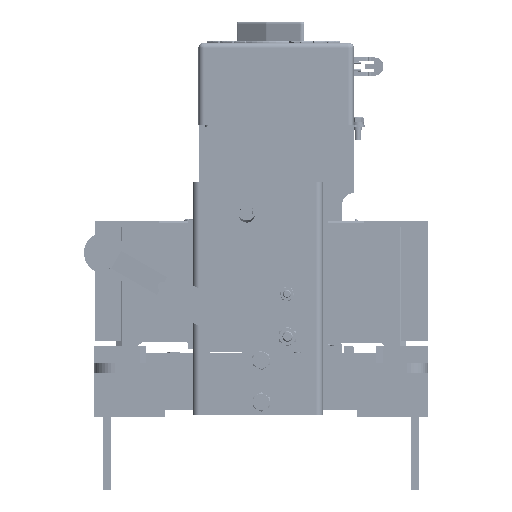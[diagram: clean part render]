
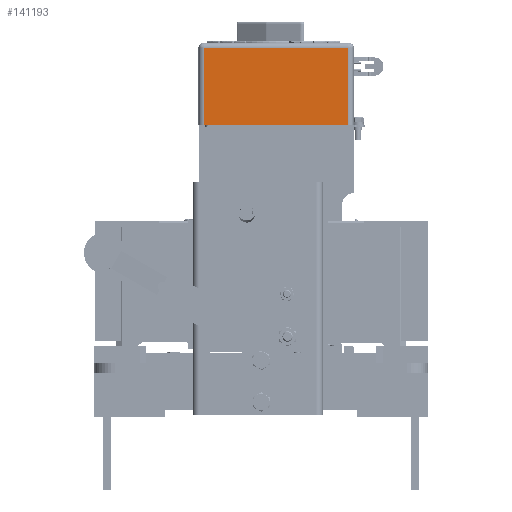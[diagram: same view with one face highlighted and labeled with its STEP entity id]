
A CAD part, left-side view. The second image highlights one B-rep face of the part: STEP entity #141193.
In plain terms, the highlighted planar face has unit normal (-1, 0, 0).
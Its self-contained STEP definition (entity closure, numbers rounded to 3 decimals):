
#3230 = LINE ( 'NONE', #157275, #3234 ) ;
#3234 = VECTOR ( 'NONE', #157278, 1000. ) ;
#3272 = LINE ( 'NONE', #157635, #3336 ) ;
#3326 = LINE ( 'NONE', #157651, #3332 ) ;
#3332 = VECTOR ( 'NONE', #157657, 1000. ) ;
#3334 = LINE ( 'NONE', #157668, #3340 ) ;
#3336 = VECTOR ( 'NONE', #157661, 1000. ) ;
#3340 = VECTOR ( 'NONE', #157674, 1000. ) ;
#27838 = VERTEX_POINT ( 'NONE', #176121 ) ;
#27843 = VERTEX_POINT ( 'NONE', #176118 ) ;
#27851 = VERTEX_POINT ( 'NONE', #176135 ) ;
#27863 = VERTEX_POINT ( 'NONE', #176156 ) ;
#31268 = ORIENTED_EDGE ( 'NONE', *, *, #206676, .F. ) ;
#123988 = FACE_OUTER_BOUND ( 'NONE', #266877, .T. ) ;
#141193 = ADVANCED_FACE ( 'NONE', ( #123988 ), #250225, .F. ) ;
#157275 = CARTESIAN_POINT ( 'NONE',  ( -113.638, -68.062, 158.851 ) ) ;
#157278 = DIRECTION ( 'NONE',  ( 0., 1., 0. ) ) ;
#157635 = CARTESIAN_POINT ( 'NONE',  ( -113.638, 51.438, 218.351 ) ) ;
#157651 = CARTESIAN_POINT ( 'NONE',  ( -113.638, -64.062, 158.851 ) ) ;
#157657 = DIRECTION ( 'NONE',  ( 0., 0., 1. ) ) ;
#157661 = DIRECTION ( 'NONE',  ( 0., 1., 0. ) ) ;
#157668 = CARTESIAN_POINT ( 'NONE',  ( -113.638, 47.438, 158.851 ) ) ;
#157674 = DIRECTION ( 'NONE',  ( 0., 0., -1. ) ) ;
#163258 = AXIS2_PLACEMENT_3D ( 'NONE', #250205, #250230, #250231 ) ;
#172738 = ORIENTED_EDGE ( 'NONE', *, *, #206734, .T. ) ;
#172748 = ORIENTED_EDGE ( 'NONE', *, *, #206735, .T. ) ;
#172762 = ORIENTED_EDGE ( 'NONE', *, *, #206738, .T. ) ;
#176118 = CARTESIAN_POINT ( 'NONE',  ( -113.638, -64.062, 158.851 ) ) ;
#176121 = CARTESIAN_POINT ( 'NONE',  ( -113.638, 47.438, 218.351 ) ) ;
#176135 = CARTESIAN_POINT ( 'NONE',  ( -113.638, -64.062, 218.351 ) ) ;
#176156 = CARTESIAN_POINT ( 'NONE',  ( -113.638, 47.438, 158.851 ) ) ;
#206676 = EDGE_CURVE ( 'NONE', #27843, #27863, #3230, .T. ) ;
#206734 = EDGE_CURVE ( 'NONE', #27843, #27851, #3326, .T. ) ;
#206735 = EDGE_CURVE ( 'NONE', #27851, #27838, #3272, .T. ) ;
#206738 = EDGE_CURVE ( 'NONE', #27838, #27863, #3334, .T. ) ;
#250205 = CARTESIAN_POINT ( 'NONE',  ( -113.638, -68.062, 158.851 ) ) ;
#250225 = PLANE ( 'NONE',  #163258 ) ;
#250230 = DIRECTION ( 'NONE',  ( 1., 0., 0. ) ) ;
#250231 = DIRECTION ( 'NONE',  ( 0., 0., -1. ) ) ;
#266877 = EDGE_LOOP ( 'NONE', ( #31268, #172738, #172748, #172762 ) ) ;
